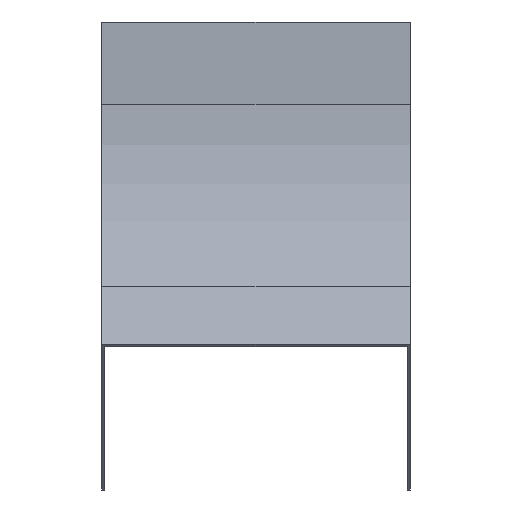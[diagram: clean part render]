
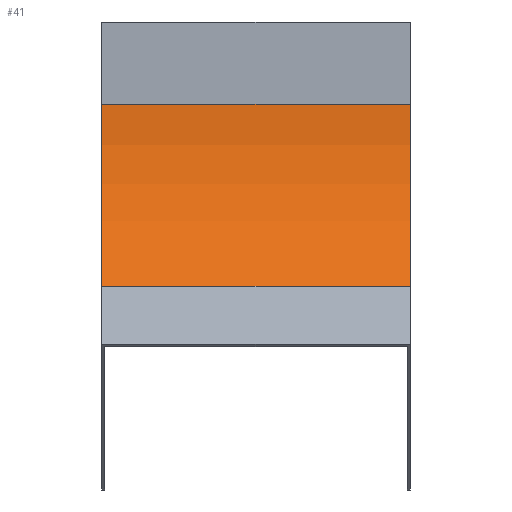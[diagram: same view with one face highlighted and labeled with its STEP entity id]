
A CAD part, front view. The second image highlights one B-rep face of the part: STEP entity #41.
In plain terms, the highlighted cylindrical face has radius 125 mm (diameter 250 mm), a partial arc.
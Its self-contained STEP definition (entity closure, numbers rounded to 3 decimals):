
#7 = VERTEX_POINT ( 'NONE', #62 ) ;
#41 = ADVANCED_FACE ( 'NONE', ( #441 ), #328, .F. ) ;
#53 = DIRECTION ( 'NONE',  ( 0., 0., 1. ) ) ;
#60 = ORIENTED_EDGE ( 'NONE', *, *, #1276, .F. ) ;
#62 = CARTESIAN_POINT ( 'NONE',  ( -75., 0., -40. ) ) ;
#71 = DIRECTION ( 'NONE',  ( -1., 0., 0. ) ) ;
#82 = EDGE_CURVE ( 'NONE', #675, #7, #1209, .T. ) ;
#169 = CARTESIAN_POINT ( 'NONE',  ( 75., -36.612, -128.388 ) ) ;
#328 = CYLINDRICAL_SURFACE ( 'NONE', #412, 125. ) ;
#412 = AXIS2_PLACEMENT_3D ( 'NONE', #466, #71, #53 ) ;
#418 = EDGE_CURVE ( 'NONE', #7, #879, #440, .T. ) ;
#440 = CIRCLE ( 'NONE', #1172, 125. ) ;
#441 = FACE_OUTER_BOUND ( 'NONE', #633, .T. ) ;
#466 = CARTESIAN_POINT ( 'NONE',  ( 75., -125., -40. ) ) ;
#484 = CARTESIAN_POINT ( 'NONE',  ( 75., 0., -40. ) ) ;
#588 = AXIS2_PLACEMENT_3D ( 'NONE', #866, #639, #1405 ) ;
#633 = EDGE_LOOP ( 'NONE', ( #754, #1368, #60, #1066 ) ) ;
#639 = DIRECTION ( 'NONE',  ( -1., 0., 0. ) ) ;
#666 = CARTESIAN_POINT ( 'NONE',  ( -75., -125., -40. ) ) ;
#675 = VERTEX_POINT ( 'NONE', #484 ) ;
#676 = DIRECTION ( 'NONE',  ( -1., 0., 0. ) ) ;
#754 = ORIENTED_EDGE ( 'NONE', *, *, #418, .T. ) ;
#786 = CARTESIAN_POINT ( 'NONE',  ( -75., -36.612, -128.388 ) ) ;
#805 = DIRECTION ( 'NONE',  ( 0., 0., 1. ) ) ;
#861 = EDGE_CURVE ( 'NONE', #1655, #879, #1563, .T. ) ;
#866 = CARTESIAN_POINT ( 'NONE',  ( 75., -125., -40. ) ) ;
#879 = VERTEX_POINT ( 'NONE', #786 ) ;
#913 = DIRECTION ( 'NONE',  ( -1., 0., 0. ) ) ;
#946 = CARTESIAN_POINT ( 'NONE',  ( 75., 0., -40. ) ) ;
#1066 = ORIENTED_EDGE ( 'NONE', *, *, #82, .T. ) ;
#1114 = VECTOR ( 'NONE', #913, 1000. ) ;
#1172 = AXIS2_PLACEMENT_3D ( 'NONE', #666, #676, #805 ) ;
#1209 = LINE ( 'NONE', #946, #1604 ) ;
#1242 = CARTESIAN_POINT ( 'NONE',  ( 75., -36.612, -128.388 ) ) ;
#1276 = EDGE_CURVE ( 'NONE', #675, #1655, #1660, .T. ) ;
#1368 = ORIENTED_EDGE ( 'NONE', *, *, #861, .F. ) ;
#1405 = DIRECTION ( 'NONE',  ( 0., 0., 1. ) ) ;
#1563 = LINE ( 'NONE', #169, #1114 ) ;
#1604 = VECTOR ( 'NONE', #1621, 1000. ) ;
#1621 = DIRECTION ( 'NONE',  ( -1., 0., 0. ) ) ;
#1655 = VERTEX_POINT ( 'NONE', #1242 ) ;
#1660 = CIRCLE ( 'NONE', #588, 125. ) ;
